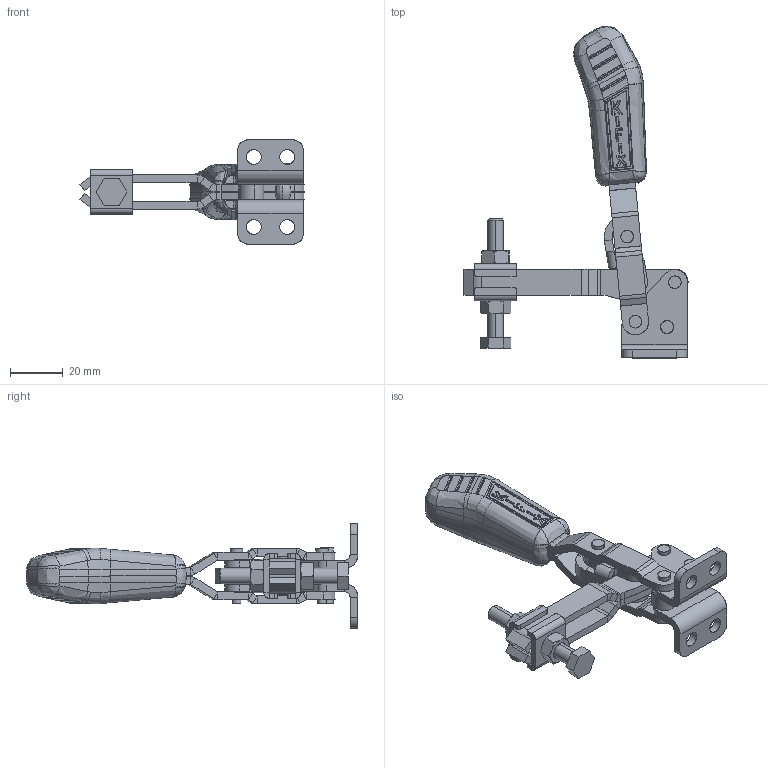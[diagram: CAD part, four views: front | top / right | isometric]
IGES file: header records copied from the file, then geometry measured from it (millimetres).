
Start section: SolidWorks IGES file using analytic representation for surfaces
Global section: file name: C:\Projetos\Grampos\KF-012\KF-012 DBL\KF-012 DBL.IGS; native system: SolidWorks 2018; preprocessor: SolidWorks 2018; author: Ricardo; date: 180314.134035; units: millimetre
Bounding box: 85 x 125.92 x 39.6 mm (x, y, z)
Surface area: 28979 mm2 (no closed solid volume)
Topology: 0 solids, 0 shells, 1111 faces, 10527 edges, 10474 vertices
Faces by surface type: bspline 662, revolution 449
